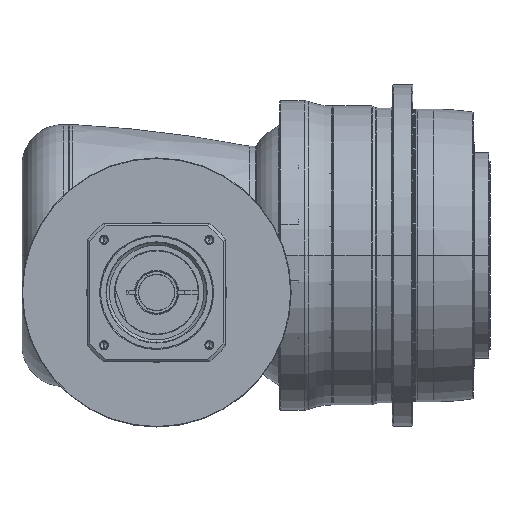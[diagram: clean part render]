
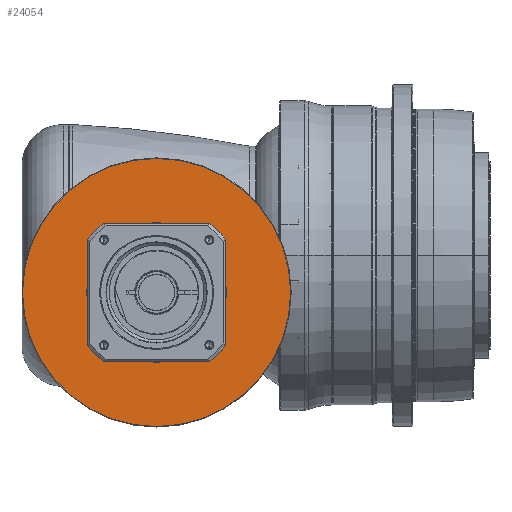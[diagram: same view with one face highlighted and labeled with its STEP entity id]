
A CAD part, front view. The second image highlights one B-rep face of the part: STEP entity #24054.
In plain terms, the highlighted planar face has unit normal (0, -1, 0) as drawn and (1, 0, 0) by its records, which use the part's own axes.
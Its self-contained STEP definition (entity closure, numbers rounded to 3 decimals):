
#22743=CARTESIAN_POINT('',(-3.5,0.,0.));
#22744=DIRECTION('',(-1.,0.,0.));
#22745=DIRECTION('',(0.,-1.,0.));
#22746=AXIS2_PLACEMENT_3D('',#22743,#22744,#22745);
#22748=CARTESIAN_POINT('',(-3.5,0.,0.));
#22749=DIRECTION('',(-1.,0.,0.));
#22750=DIRECTION('',(0.,1.,0.));
#22751=AXIS2_PLACEMENT_3D('',#22748,#22749,#22750);
#22753=CARTESIAN_POINT('',(-3.5,0.,0.));
#22754=DIRECTION('',(-1.,0.,0.));
#22755=DIRECTION('',(0.,-1.,0.));
#22756=AXIS2_PLACEMENT_3D('',#22753,#22754,#22755);
#22758=CARTESIAN_POINT('',(-3.5,0.,0.));
#22759=DIRECTION('',(-1.,0.,0.));
#22760=DIRECTION('',(0.,1.,0.));
#22761=AXIS2_PLACEMENT_3D('',#22758,#22759,#22760);
#23017=CARTESIAN_POINT('',(-3.5,-130.5,0.));
#23018=CARTESIAN_POINT('',(-3.5,130.5,0.));
#23019=VERTEX_POINT('',#23017);
#23020=VERTEX_POINT('',#23018);
#23033=CARTESIAN_POINT('',(-3.5,-68.,0.));
#23034=CARTESIAN_POINT('',(-3.5,68.,0.));
#23035=VERTEX_POINT('',#23033);
#23036=VERTEX_POINT('',#23034);
#24039=CARTESIAN_POINT('',(-3.5,0.,0.));
#24040=DIRECTION('',(1.,0.,0.));
#24041=DIRECTION('',(0.,-1.,0.));
#24042=AXIS2_PLACEMENT_3D('',#24039,#24040,#24041);
#24043=PLANE('',#24042);
#24044=ORIENTED_EDGE('',*,*,#23995,.T.);
#24045=ORIENTED_EDGE('',*,*,#23980,.T.);
#24046=EDGE_LOOP('',(#24044,#24045));
#24047=FACE_OUTER_BOUND('',#24046,.F.);
#24049=ORIENTED_EDGE('',*,*,#24048,.F.);
#24051=ORIENTED_EDGE('',*,*,#24050,.F.);
#24052=EDGE_LOOP('',(#24049,#24051));
#24053=FACE_BOUND('',#24052,.F.);
#24054=ADVANCED_FACE('',(#24047,#24053),#24043,.T.);
#22747=CIRCLE('',#22746,68.);
#22752=CIRCLE('',#22751,68.);
#22757=CIRCLE('',#22756,130.5);
#22762=CIRCLE('',#22761,130.5);
#23980=EDGE_CURVE('',#23020,#23019,#22762,.T.);
#23995=EDGE_CURVE('',#23019,#23020,#22757,.T.);
#24048=EDGE_CURVE('',#23035,#23036,#22747,.T.);
#24050=EDGE_CURVE('',#23036,#23035,#22752,.T.);
